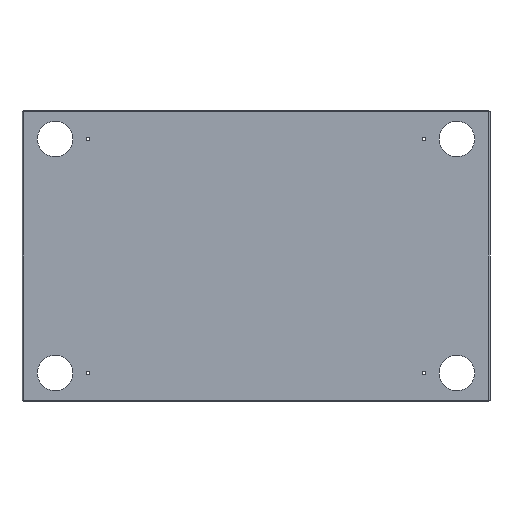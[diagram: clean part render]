
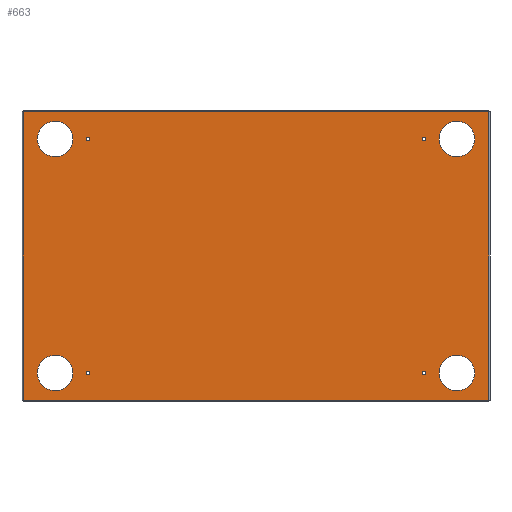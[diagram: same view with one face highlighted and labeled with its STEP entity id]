
A CAD part, front view. The second image highlights one B-rep face of the part: STEP entity #663.
In plain terms, the highlighted planar face has unit normal (0, -1, 0).
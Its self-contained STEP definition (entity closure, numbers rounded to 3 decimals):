
#40=CIRCLE('',#719,1.321);
#41=CIRCLE('',#720,1.321);
#42=CIRCLE('',#721,1.321);
#43=CIRCLE('',#722,1.321);
#44=CIRCLE('',#723,15.);
#45=CIRCLE('',#724,15.);
#46=CIRCLE('',#725,15.);
#47=CIRCLE('',#726,15.);
#100=ORIENTED_EDGE('',*,*,#256,.F.);
#101=ORIENTED_EDGE('',*,*,#257,.F.);
#102=ORIENTED_EDGE('',*,*,#258,.F.);
#103=ORIENTED_EDGE('',*,*,#259,.F.);
#104=ORIENTED_EDGE('',*,*,#260,.F.);
#105=ORIENTED_EDGE('',*,*,#261,.F.);
#106=ORIENTED_EDGE('',*,*,#262,.F.);
#107=ORIENTED_EDGE('',*,*,#263,.F.);
#108=ORIENTED_EDGE('',*,*,#264,.F.);
#109=ORIENTED_EDGE('',*,*,#250,.F.);
#110=ORIENTED_EDGE('',*,*,#265,.T.);
#111=ORIENTED_EDGE('',*,*,#252,.T.);
#250=EDGE_CURVE('',#327,#324,#394,.T.);
#252=EDGE_CURVE('',#329,#328,#396,.T.);
#256=EDGE_CURVE('',#332,#332,#40,.F.);
#257=EDGE_CURVE('',#333,#333,#41,.F.);
#258=EDGE_CURVE('',#334,#334,#42,.F.);
#259=EDGE_CURVE('',#335,#335,#43,.F.);
#260=EDGE_CURVE('',#336,#336,#44,.T.);
#261=EDGE_CURVE('',#337,#337,#45,.T.);
#262=EDGE_CURVE('',#338,#338,#46,.T.);
#263=EDGE_CURVE('',#339,#339,#47,.T.);
#264=EDGE_CURVE('',#324,#328,#400,.T.);
#265=EDGE_CURVE('',#327,#329,#401,.T.);
#324=VERTEX_POINT('',#1017);
#327=VERTEX_POINT('',#1023);
#328=VERTEX_POINT('',#1027);
#329=VERTEX_POINT('',#1029);
#332=VERTEX_POINT('',#1037);
#333=VERTEX_POINT('',#1039);
#334=VERTEX_POINT('',#1041);
#335=VERTEX_POINT('',#1043);
#336=VERTEX_POINT('',#1045);
#337=VERTEX_POINT('',#1047);
#338=VERTEX_POINT('',#1049);
#339=VERTEX_POINT('',#1051);
#394=LINE('',#1024,#442);
#396=LINE('',#1028,#444);
#400=LINE('',#1052,#448);
#401=LINE('',#1053,#449);
#442=VECTOR('',#815,1000.);
#444=VECTOR('',#819,1000.);
#448=VECTOR('',#841,1000.);
#449=VECTOR('',#842,1000.);
#477=EDGE_LOOP('',(#100));
#478=EDGE_LOOP('',(#101));
#479=EDGE_LOOP('',(#102));
#480=EDGE_LOOP('',(#103));
#481=EDGE_LOOP('',(#104));
#482=EDGE_LOOP('',(#105));
#483=EDGE_LOOP('',(#106));
#484=EDGE_LOOP('',(#107));
#485=EDGE_LOOP('',(#108,#109,#110,#111));
#559=FACE_BOUND('',#477,.T.);
#560=FACE_BOUND('',#478,.T.);
#561=FACE_BOUND('',#479,.T.);
#562=FACE_BOUND('',#480,.T.);
#563=FACE_BOUND('',#481,.T.);
#564=FACE_BOUND('',#482,.T.);
#565=FACE_BOUND('',#483,.T.);
#566=FACE_BOUND('',#484,.T.);
#567=FACE_BOUND('',#485,.T.);
#641=PLANE('',#718);
#663=ADVANCED_FACE('',(#559,#560,#561,#562,#563,#564,#565,#566,#567),#641,
 .F.);
#718=AXIS2_PLACEMENT_3D('',#1035,#823,#824);
#719=AXIS2_PLACEMENT_3D('',#1036,#825,#826);
#720=AXIS2_PLACEMENT_3D('',#1038,#827,#828);
#721=AXIS2_PLACEMENT_3D('',#1040,#829,#830);
#722=AXIS2_PLACEMENT_3D('',#1042,#831,#832);
#723=AXIS2_PLACEMENT_3D('',#1044,#833,#834);
#724=AXIS2_PLACEMENT_3D('',#1046,#835,#836);
#725=AXIS2_PLACEMENT_3D('',#1048,#837,#838);
#726=AXIS2_PLACEMENT_3D('',#1050,#839,#840);
#815=DIRECTION('',(0.,0.,-1.));
#819=DIRECTION('',(0.,0.,-1.));
#823=DIRECTION('',(0.,1.,0.));
#824=DIRECTION('',(0.,0.,1.));
#825=DIRECTION('',(0.,1.,0.));
#826=DIRECTION('',(0.,0.,1.));
#827=DIRECTION('',(0.,1.,0.));
#828=DIRECTION('',(0.,0.,1.));
#829=DIRECTION('',(0.,1.,0.));
#830=DIRECTION('',(0.,0.,1.));
#831=DIRECTION('',(0.,1.,0.));
#832=DIRECTION('',(0.,0.,1.));
#833=DIRECTION('',(0.,-1.,0.));
#834=DIRECTION('',(0.,0.,-1.));
#835=DIRECTION('',(0.,-1.,0.));
#836=DIRECTION('',(0.,0.,-1.));
#837=DIRECTION('',(0.,-1.,0.));
#838=DIRECTION('',(0.,0.,-1.));
#839=DIRECTION('',(0.,-1.,0.));
#840=DIRECTION('',(0.,0.,-1.));
#841=DIRECTION('',(-1.,0.,0.));
#842=DIRECTION('',(-1.,0.,0.));
#1017=CARTESIAN_POINT('',(197.,0.,-122.));
#1023=CARTESIAN_POINT('',(197.,0.,122.));
#1024=CARTESIAN_POINT('',(197.,0.,123.));
#1027=CARTESIAN_POINT('',(-197.,0.,-122.));
#1028=CARTESIAN_POINT('',(-197.,0.,123.));
#1029=CARTESIAN_POINT('',(-197.,0.,122.));
#1035=CARTESIAN_POINT('',(-197.,0.,123.));
#1036=CARTESIAN_POINT('',(142.,0.,99.));
#1037=CARTESIAN_POINT('',(142.,0.,100.321));
#1038=CARTESIAN_POINT('',(-142.,0.,99.));
#1039=CARTESIAN_POINT('',(-142.,0.,100.321));
#1040=CARTESIAN_POINT('',(142.,0.,-99.));
#1041=CARTESIAN_POINT('',(142.,0.,-97.679));
#1042=CARTESIAN_POINT('',(-142.,0.,-99.));
#1043=CARTESIAN_POINT('',(-142.,0.,-97.679));
#1044=CARTESIAN_POINT('',(170.,0.,99.));
#1045=CARTESIAN_POINT('',(170.,0.,84.));
#1046=CARTESIAN_POINT('',(-170.,0.,99.));
#1047=CARTESIAN_POINT('',(-170.,0.,84.));
#1048=CARTESIAN_POINT('',(170.,0.,-99.));
#1049=CARTESIAN_POINT('',(170.,0.,-114.));
#1050=CARTESIAN_POINT('',(-170.,0.,-99.));
#1051=CARTESIAN_POINT('',(-170.,0.,-114.));
#1052=CARTESIAN_POINT('',(-197.,0.,-122.));
#1053=CARTESIAN_POINT('',(198.,0.,122.));
